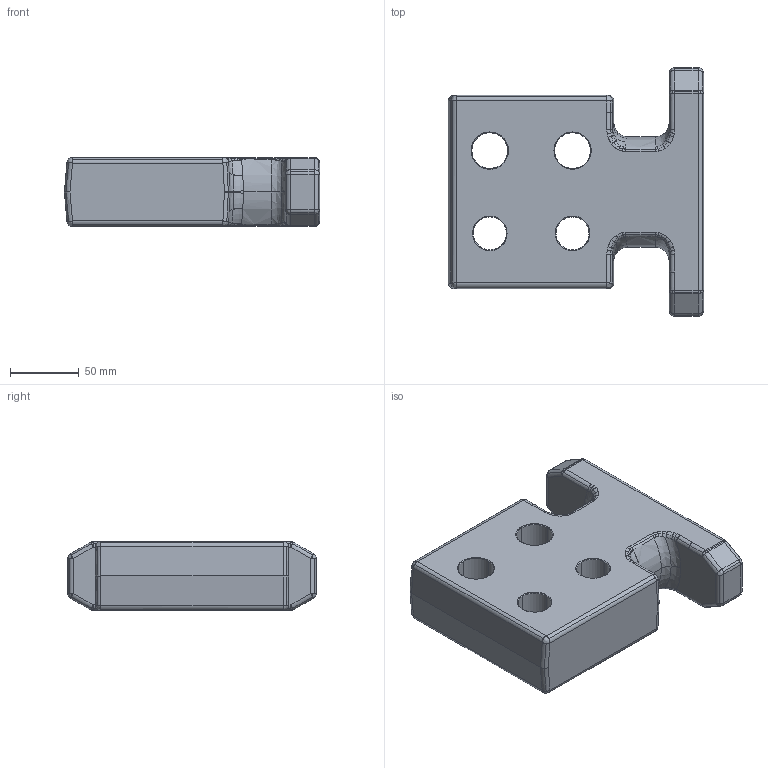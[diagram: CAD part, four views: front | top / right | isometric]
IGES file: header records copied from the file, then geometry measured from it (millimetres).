
Global section: file name: E:\UnigraphicsGraphicData\MISUMI_PRESS-PARTS\IGES\3d_chpl80_03568_r00.igs; native system: NX V5.0; preprocessor: UGS NX IGES V5.0; author: MISUMI; date: 20110105.160241; units: millimetre
Bounding box: 185 x 180 x 50 mm (x, y, z)
Surface area: 96467.9 mm2 (no closed solid volume)
Topology: 0 solids, 0 shells, 361 faces, 1912 edges, 1888 vertices
Faces by surface type: bspline 361
